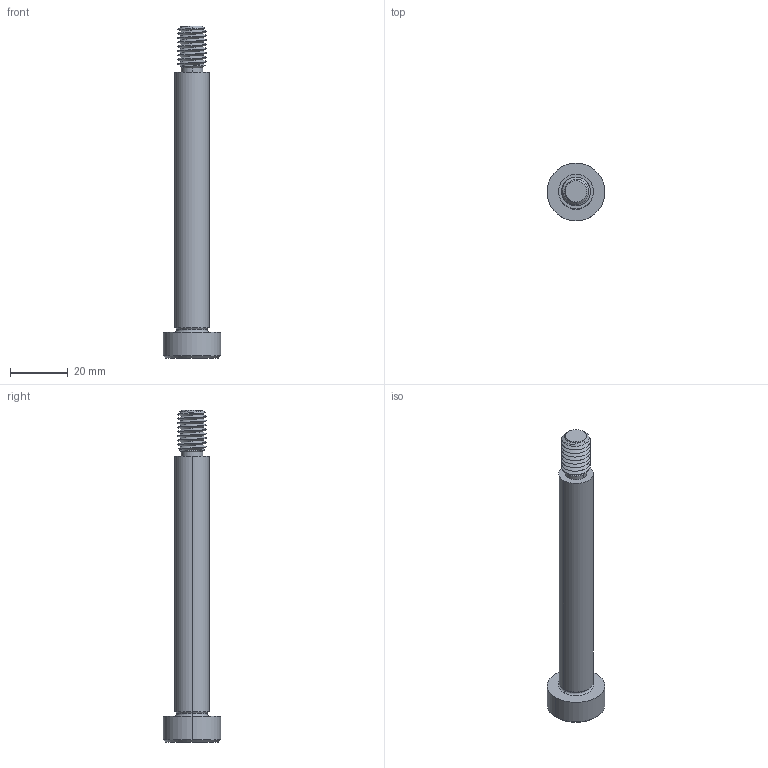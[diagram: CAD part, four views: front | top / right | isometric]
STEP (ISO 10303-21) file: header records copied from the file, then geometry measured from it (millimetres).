
FILE_DESCRIPTION (( 'STEP AP203' ), '1' );
FILE_NAME ('P0130.120-090-B2.step', '2021-11-09T22:11:35', ( '' ), ( '' ), 'SwSTEP 2.0', 'SolidWorks 2019', '' );
FILE_SCHEMA (( 'CONFIG_CONTROL_DESIGN' ));
Length unit declared in the file: millimetre
Products named in the file (1): P0130.120-090-B2
Bounding box: 20 x 20 x 115 mm (x, y, z)
Volume: 13665.9 mm3; surface area: 5513 mm2
Topology: 1 solids, 1 shells, 60 faces, 142 edges, 85 vertices
Faces by surface type: cylinder 23, plane 16, cone 15, torus 4, bspline 2
Entity records: 3534 total; most frequent: CARTESIAN_POINT 2187, ORIENTED_EDGE 280, DIRECTION 247, EDGE_CURVE 140, AXIS2_PLACEMENT_3D 99, VERTEX_POINT 85, EDGE_LOOP 63, FACE_OUTER_BOUND 60
